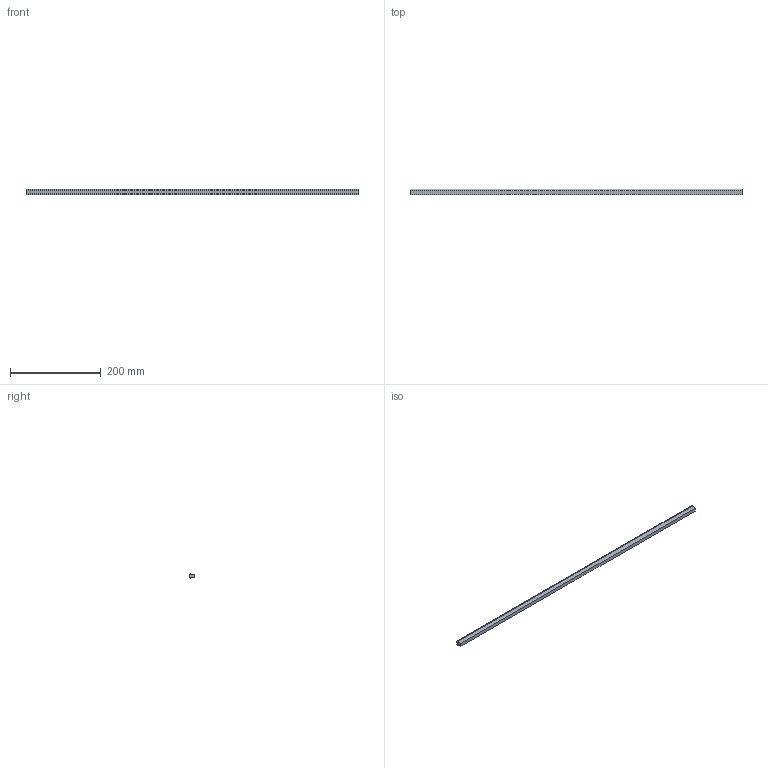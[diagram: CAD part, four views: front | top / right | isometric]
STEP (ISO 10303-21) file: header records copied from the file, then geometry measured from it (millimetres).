
FILE_DESCRIPTION(/* description */ (''),/* implementation_level */ '2;1');
FILE_NAME(/* name */ 'Pos0-Antislip-Rubber-0st_A',/* time_stamp */ '2024-08-06T13:37:43+02:00',/* author */ (''),/* organization */ (''),/* preprocessor_version */ 'ST-DEVELOPER v16.5',/* originating_system */ 'HiCAD 2024 2901.2 Build 361',/* authorisation */ '');
FILE_SCHEMA (('AUTOMOTIVE_DESIGN { 1 0 10303 214 1 1 1 1 }'));
Length unit declared in the file: millimetre
Products named in the file (1): Pos0-Antislip-Rubber-0st
Bounding box: 730 x 12 x 12 mm (x, y, z)
Volume: 73000 mm3; surface area: 33529.5 mm2
Topology: 1 solids, 1 shells, 10 faces, 24 edges, 16 vertices
Faces by surface type: plane 10
Entity records: 546 total; most frequent: CARTESIAN_POINT 50, PRESENTATION_STYLE_ASSIGNMENT 49, COLOUR_RGB 49, DRAUGHTING_PRE_DEFINED_CURVE_FONT 48, CURVE_STYLE 48, OVER_RIDING_STYLED_ITEM 48, ORIENTED_EDGE 48, DIRECTION 44
